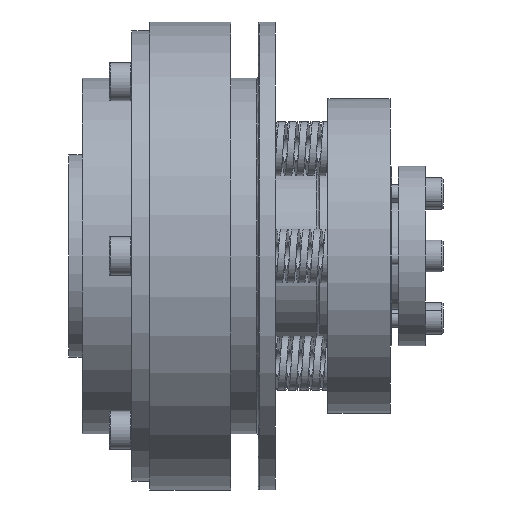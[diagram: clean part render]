
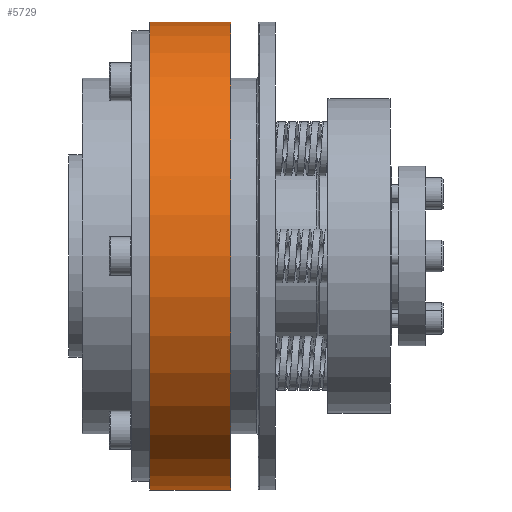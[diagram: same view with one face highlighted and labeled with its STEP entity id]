
A CAD part, front view. The second image highlights one B-rep face of the part: STEP entity #5729.
In plain terms, the highlighted cylindrical face has radius 52 mm (diameter 104 mm), a partial arc.
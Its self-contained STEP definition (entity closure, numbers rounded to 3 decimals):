
#317 = DIRECTION ( 'NONE',  ( 0., 0., 1. ) ) ;
#809 = AXIS2_PLACEMENT_3D ( 'NONE', #11033, #1862, #22764 ) ;
#1437 = ORIENTED_EDGE ( 'NONE', *, *, #9638, .T. ) ;
#1862 = DIRECTION ( 'NONE',  ( -1., 0., 0. ) ) ;
#2519 = CIRCLE ( 'NONE', #14375, 52. ) ;
#3592 = EDGE_CURVE ( 'NONE', #25175, #16635, #20822, .T. ) ;
#4246 = VERTEX_POINT ( 'NONE', #4620 ) ;
#4620 = CARTESIAN_POINT ( 'NONE',  ( 18., 0., 52. ) ) ;
#5729 = ADVANCED_FACE ( 'NONE', ( #11706 ), #25848, .T. ) ;
#6134 = ORIENTED_EDGE ( 'NONE', *, *, #13344, .T. ) ;
#7090 = DIRECTION ( 'NONE',  ( -1., 0., 0. ) ) ;
#8081 = ORIENTED_EDGE ( 'NONE', *, *, #3592, .F. ) ;
#9479 = DIRECTION ( 'NONE',  ( -1., 0., 0. ) ) ;
#9638 = EDGE_CURVE ( 'NONE', #4246, #16635, #2519, .T. ) ;
#9747 = CARTESIAN_POINT ( 'NONE',  ( 0., 0., -52. ) ) ;
#10781 = CARTESIAN_POINT ( 'NONE',  ( 36., 0., 0. ) ) ;
#10910 = VERTEX_POINT ( 'NONE', #23961 ) ;
#11033 = CARTESIAN_POINT ( 'NONE',  ( 0., 0., 0. ) ) ;
#11706 = FACE_OUTER_BOUND ( 'NONE', #29943, .T. ) ;
#12103 = CARTESIAN_POINT ( 'NONE',  ( 18., 0., -52. ) ) ;
#13318 = VECTOR ( 'NONE', #9479, 1000. ) ;
#13344 = EDGE_CURVE ( 'NONE', #10910, #4246, #25668, .T. ) ;
#14375 = AXIS2_PLACEMENT_3D ( 'NONE', #25686, #28127, #317 ) ;
#15547 = AXIS2_PLACEMENT_3D ( 'NONE', #10781, #22312, #27012 ) ;
#16635 = VERTEX_POINT ( 'NONE', #12103 ) ;
#18472 = CIRCLE ( 'NONE', #15547, 52. ) ;
#19364 = VECTOR ( 'NONE', #7090, 1000. ) ;
#20822 = LINE ( 'NONE', #9747, #19364 ) ;
#21112 = CARTESIAN_POINT ( 'NONE',  ( 0., 0., 52. ) ) ;
#22312 = DIRECTION ( 'NONE',  ( 1., 0., 0. ) ) ;
#22764 = DIRECTION ( 'NONE',  ( 0., 0., 1. ) ) ;
#22792 = ORIENTED_EDGE ( 'NONE', *, *, #23422, .F. ) ;
#23422 = EDGE_CURVE ( 'NONE', #10910, #25175, #18472, .T. ) ;
#23961 = CARTESIAN_POINT ( 'NONE',  ( 36., 0., 52. ) ) ;
#25175 = VERTEX_POINT ( 'NONE', #27375 ) ;
#25668 = LINE ( 'NONE', #21112, #13318 ) ;
#25686 = CARTESIAN_POINT ( 'NONE',  ( 18., 0., 0. ) ) ;
#25848 = CYLINDRICAL_SURFACE ( 'NONE', #809, 52. ) ;
#27012 = DIRECTION ( 'NONE',  ( 0., 0., 1. ) ) ;
#27375 = CARTESIAN_POINT ( 'NONE',  ( 36., 0., -52. ) ) ;
#28127 = DIRECTION ( 'NONE',  ( 1., 0., 0. ) ) ;
#29943 = EDGE_LOOP ( 'NONE', ( #8081, #22792, #6134, #1437 ) ) ;
